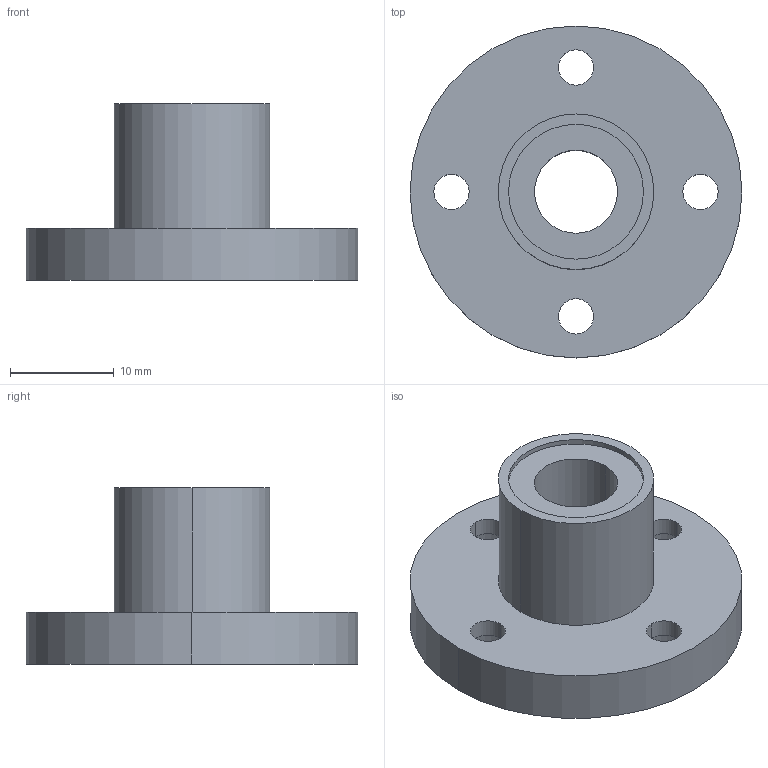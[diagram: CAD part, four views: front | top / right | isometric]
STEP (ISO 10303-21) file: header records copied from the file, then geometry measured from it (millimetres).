
FILE_DESCRIPTION((''),'2;1');
FILE_NAME('C:\Documents and Settings\ｿﾀﾀ蠑ｷ1\ｹﾙﾅﾁ ﾈｭｸ饅\ｺﾎﾇｰﾆﾄﾀﾏ\ﾁｦﾇｰ\LMF__UU\LMF8SUU.stp','2005-06-15T09:35:14',('ｿﾀﾀ蠑ｷ1'),(''),'Autodesk Inventor 9','Autodesk Inventor 9','');
FILE_SCHEMA(('AUTOMOTIVE_DESIGN { 1 0 10303 214 1 1 1 1 }'));
Length unit declared in the file: millimetre
Products named in the file (1): LMF__
Bounding box: 32 x 32 x 17 mm (x, y, z)
Volume: 4683.6 mm3; surface area: 3292.1 mm2
Topology: 1 solids, 1 shells, 38 faces, 84 edges, 56 vertices
Faces by surface type: cylinder 28, plane 10
Entity records: 1127 total; most frequent: DIRECTION 218, CARTESIAN_POINT 179, ORIENTED_EDGE 168, AXIS2_PLACEMENT_3D 95, EDGE_CURVE 84, VERTEX_POINT 56, CIRCLE 56, EDGE_LOOP 56
